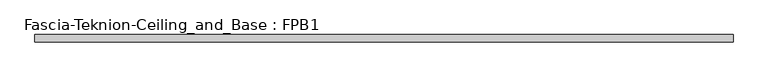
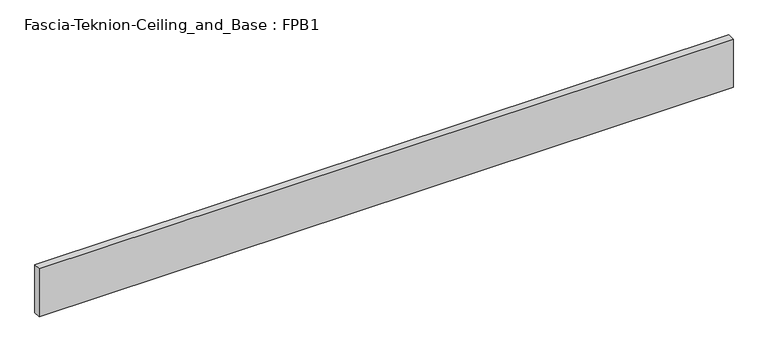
"""IFC4 building model written with IfcOpenShell, lengths in millimetres: proxy geometry, Fascia-Teknion-Ceiling_and_Base : FPB1."""

from ifc_helpers import new_model, si_unit, origin, origin_with_axes, place, context, project, spatial, polyline, outline, extrude, source, transform, mapped, element, save


def fascia_teknion_ceiling_and_base_fpb1_e3dcadc1(model_context):
    return source(origin(), model_context, "Body", "SweptSolid", [
        extrude(outline(polyline([(904.2300781, 0.0), (904.2300781, -19.05), (-904.2300781, -19.05), (-904.2300781, 0.0), (904.2300781, 0.0)])), origin_with_axes(), (0.0, 0.0, 1.0), 132.08),
    ])


if __name__ == "__main__":
    model = new_model("IFC4")
    model_context = context("Model", 3, world=origin())
    ifc_project = project(units=[si_unit("LENGTHUNIT", "METRE", prefix="MILLI")], contexts=[model_context])
    site = spatial("IfcSite", under=ifc_project)
    building = spatial("IfcBuilding", under=site)
    placement = place(None, origin())
    fascia_teknion_ceiling_and_base_fpb1_shape = fascia_teknion_ceiling_and_base_fpb1_e3dcadc1(model_context)
    element("IfcBuildingElementProxy", 1, Name="Fascia-Teknion-Ceiling_and_Base : FPB1", ObjectType="Fascia-Teknion-Ceiling_and_Base : FPB1", at=placement, inside=building, context=model_context, shape_type="MappedRepresentation", body=[
        mapped(fascia_teknion_ceiling_and_base_fpb1_shape, transform((0.0, 0.0, 0.0), x_axis=(1.0, 0.0, 0.0), y_axis=(0.0, 1.0, 0.0), z_axis=(0.0, 0.0, 1.0))),
    ])
    save(model, "model.ifc")
